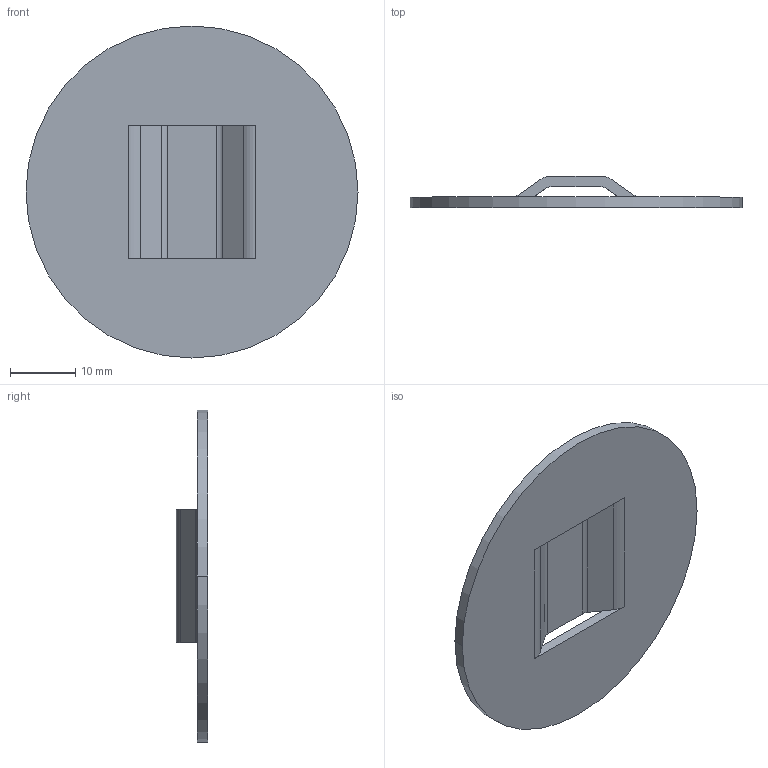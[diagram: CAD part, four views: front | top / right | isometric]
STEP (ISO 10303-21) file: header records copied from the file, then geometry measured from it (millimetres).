
FILE_DESCRIPTION (( 'STEP AP203' ), '1' );
FILE_NAME ('1540159-10.STEP', '2024-11-18T12:42:02', ( 'Admin' ), ( 'Microsoft' ), 'SwSTEP 2.0', 'SolidWorks 2024', '' );
FILE_SCHEMA (( 'CONFIG_CONTROL_DESIGN' ));
Length unit declared in the file: inch
Products named in the file (1): 1540159-10
Bounding box: 50.8 x 4.8 x 50.8 mm (x, y, z)
Volume: 3303.4 mm3; surface area: 4488.8 mm2
Topology: 1 solids, 1 shells, 22 faces, 62 edges, 40 vertices
Faces by surface type: plane 12, cylinder 10
Entity records: 801 total; most frequent: DIRECTION 128, CARTESIAN_POINT 125, ORIENTED_EDGE 124, EDGE_CURVE 62, AXIS2_PLACEMENT_3D 43, VECTOR 42, LINE 42, VERTEX_POINT 40
